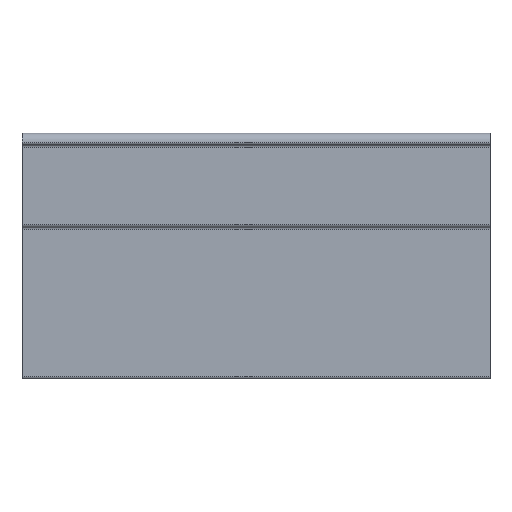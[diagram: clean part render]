
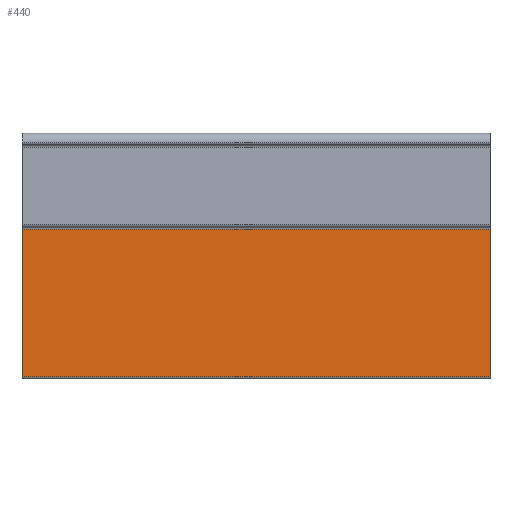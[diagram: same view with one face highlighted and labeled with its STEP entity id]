
A CAD part, front view. The second image highlights one B-rep face of the part: STEP entity #440.
In plain terms, the highlighted planar face has unit normal (0, -1, 0).
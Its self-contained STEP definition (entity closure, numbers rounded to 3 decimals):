
#30 = ORIENTED_EDGE ( 'NONE', *, *, #323, .F. ) ;
#50 = EDGE_CURVE ( 'NONE', #330, #349, #209, .T. ) ;
#53 = CARTESIAN_POINT ( 'NONE',  ( 59.184, 63.148, -32. ) ) ;
#56 = VECTOR ( 'NONE', #449, 1000. ) ;
#61 = ORIENTED_EDGE ( 'NONE', *, *, #50, .F. ) ;
#110 = EDGE_CURVE ( 'NONE', #350, #589, #325, .T. ) ;
#139 = CARTESIAN_POINT ( 'NONE',  ( 59.184, 63.148, -0.5 ) ) ;
#148 = DIRECTION ( 'NONE',  ( -1., 0., 0. ) ) ;
#164 = PLANE ( 'NONE',  #1033 ) ;
#182 = DIRECTION ( 'NONE',  ( 0., 0., -1. ) ) ;
#209 = LINE ( 'NONE', #512, #407 ) ;
#251 = EDGE_CURVE ( 'NONE', #330, #350, #430, .T. ) ;
#319 = ORIENTED_EDGE ( 'NONE', *, *, #110, .T. ) ;
#323 = EDGE_CURVE ( 'NONE', #349, #589, #1083, .T. ) ;
#325 = LINE ( 'NONE', #530, #56 ) ;
#330 = VERTEX_POINT ( 'NONE', #139 ) ;
#331 = DIRECTION ( 'NONE',  ( 0., 0., 1. ) ) ;
#349 = VERTEX_POINT ( 'NONE', #53 ) ;
#350 = VERTEX_POINT ( 'NONE', #575 ) ;
#407 = VECTOR ( 'NONE', #182, 1000. ) ;
#409 = DIRECTION ( 'NONE',  ( 0., 1., 0. ) ) ;
#430 = LINE ( 'NONE', #639, #919 ) ;
#440 = ADVANCED_FACE ( 'NONE', ( #767 ), #164, .F. ) ;
#449 = DIRECTION ( 'NONE',  ( 0., 0., -1. ) ) ;
#512 = CARTESIAN_POINT ( 'NONE',  ( 59.184, 63.148, -0.5 ) ) ;
#520 = CARTESIAN_POINT ( 'NONE',  ( -40.816, 63.148, -32. ) ) ;
#530 = CARTESIAN_POINT ( 'NONE',  ( -40.816, 63.148, -0.5 ) ) ;
#575 = CARTESIAN_POINT ( 'NONE',  ( -40.816, 63.148, -0.5 ) ) ;
#580 = CARTESIAN_POINT ( 'NONE',  ( 59.184, 63.148, -32. ) ) ;
#589 = VERTEX_POINT ( 'NONE', #520 ) ;
#639 = CARTESIAN_POINT ( 'NONE',  ( 59.184, 63.148, -0.5 ) ) ;
#754 = CARTESIAN_POINT ( 'NONE',  ( 59.184, 63.148, -0.5 ) ) ;
#767 = FACE_OUTER_BOUND ( 'NONE', #837, .T. ) ;
#813 = DIRECTION ( 'NONE',  ( -1., 0., 0. ) ) ;
#815 = VECTOR ( 'NONE', #148, 1000. ) ;
#837 = EDGE_LOOP ( 'NONE', ( #319, #30, #61, #999 ) ) ;
#919 = VECTOR ( 'NONE', #813, 1000. ) ;
#999 = ORIENTED_EDGE ( 'NONE', *, *, #251, .T. ) ;
#1033 = AXIS2_PLACEMENT_3D ( 'NONE', #754, #409, #331 ) ;
#1083 = LINE ( 'NONE', #580, #815 ) ;
